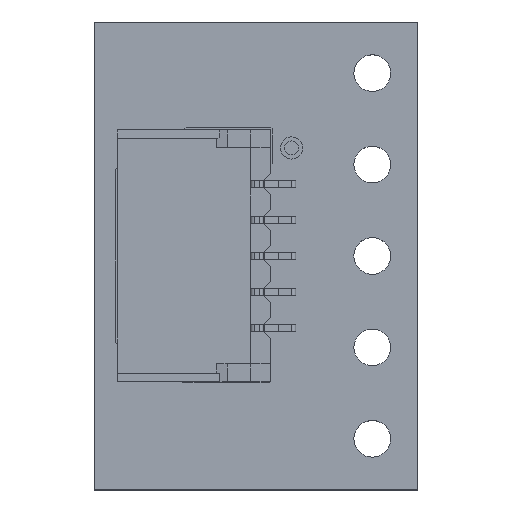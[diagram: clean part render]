
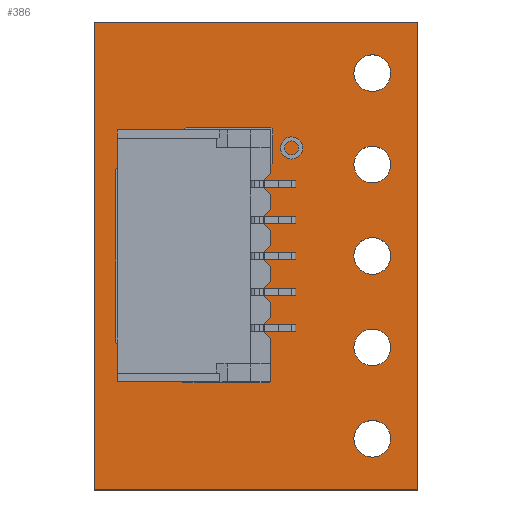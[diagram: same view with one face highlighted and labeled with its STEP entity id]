
A CAD part, top view. The second image highlights one B-rep face of the part: STEP entity #386.
In plain terms, the highlighted planar face has unit normal (0, 0, 1).
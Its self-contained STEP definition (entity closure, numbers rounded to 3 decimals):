
#102 = VERTEX_POINT('',#103);
#103 = CARTESIAN_POINT('',(9.,0.,0.));
#120 = VERTEX_POINT('',#121);
#121 = CARTESIAN_POINT('',(9.,-13.,0.));
#127 = EDGE_CURVE('',#102,#120,#128,.T.);
#128 = LINE('',#129,#130);
#129 = CARTESIAN_POINT('',(9.,0.,0.));
#130 = VECTOR('',#131,1.);
#131 = DIRECTION('',(0.,-1.,0.));
#142 = VERTEX_POINT('',#143);
#143 = CARTESIAN_POINT('',(0.,0.,0.));
#158 = EDGE_CURVE('',#142,#102,#159,.T.);
#159 = LINE('',#160,#161);
#160 = CARTESIAN_POINT('',(0.,0.,0.));
#161 = VECTOR('',#162,1.);
#162 = DIRECTION('',(1.,0.,0.));
#182 = VERTEX_POINT('',#183);
#183 = CARTESIAN_POINT('',(0.,-13.,0.));
#189 = EDGE_CURVE('',#120,#182,#190,.T.);
#190 = LINE('',#191,#192);
#191 = CARTESIAN_POINT('',(9.,-13.,0.));
#192 = VECTOR('',#193,1.);
#193 = DIRECTION('',(-1.,0.,0.));
#211 = EDGE_CURVE('',#182,#142,#212,.T.);
#212 = LINE('',#213,#214);
#213 = CARTESIAN_POINT('',(0.,-13.,0.));
#214 = VECTOR('',#215,1.);
#215 = DIRECTION('',(0.,1.,0.));
#226 = VERTEX_POINT('',#227);
#227 = CARTESIAN_POINT('',(8.24,-11.58,0.));
#243 = EDGE_CURVE('',#226,#226,#244,.T.);
#244 = CIRCLE('',#245,0.51);
#245 = AXIS2_PLACEMENT_3D('',#246,#247,#248);
#246 = CARTESIAN_POINT('',(7.73,-11.58,0.));
#247 = DIRECTION('',(0.,0.,1.));
#248 = DIRECTION('',(1.,0.,-0.));
#259 = VERTEX_POINT('',#260);
#260 = CARTESIAN_POINT('',(8.24,-9.04,0.));
#276 = EDGE_CURVE('',#259,#259,#277,.T.);
#277 = CIRCLE('',#278,0.51);
#278 = AXIS2_PLACEMENT_3D('',#279,#280,#281);
#279 = CARTESIAN_POINT('',(7.73,-9.04,0.));
#280 = DIRECTION('',(0.,0.,1.));
#281 = DIRECTION('',(1.,0.,-0.));
#292 = VERTEX_POINT('',#293);
#293 = CARTESIAN_POINT('',(8.24,-6.5,0.));
#309 = EDGE_CURVE('',#292,#292,#310,.T.);
#310 = CIRCLE('',#311,0.51);
#311 = AXIS2_PLACEMENT_3D('',#312,#313,#314);
#312 = CARTESIAN_POINT('',(7.73,-6.5,0.));
#313 = DIRECTION('',(0.,0.,1.));
#314 = DIRECTION('',(1.,0.,-0.));
#325 = VERTEX_POINT('',#326);
#326 = CARTESIAN_POINT('',(8.24,-3.96,0.));
#342 = EDGE_CURVE('',#325,#325,#343,.T.);
#343 = CIRCLE('',#344,0.51);
#344 = AXIS2_PLACEMENT_3D('',#345,#346,#347);
#345 = CARTESIAN_POINT('',(7.73,-3.96,0.));
#346 = DIRECTION('',(0.,0.,1.));
#347 = DIRECTION('',(1.,0.,-0.));
#358 = VERTEX_POINT('',#359);
#359 = CARTESIAN_POINT('',(8.24,-1.42,0.));
#375 = EDGE_CURVE('',#358,#358,#376,.T.);
#376 = CIRCLE('',#377,0.51);
#377 = AXIS2_PLACEMENT_3D('',#378,#379,#380);
#378 = CARTESIAN_POINT('',(7.73,-1.42,0.));
#379 = DIRECTION('',(0.,0.,1.));
#380 = DIRECTION('',(1.,0.,-0.));
#386 = ADVANCED_FACE('',(#387,#393,#396,#399,#402,#405),#408,.F.);
#387 = FACE_BOUND('',#388,.F.);
#388 = EDGE_LOOP('',(#389,#390,#391,#392));
#389 = ORIENTED_EDGE('',*,*,#127,.T.);
#390 = ORIENTED_EDGE('',*,*,#189,.T.);
#391 = ORIENTED_EDGE('',*,*,#211,.T.);
#392 = ORIENTED_EDGE('',*,*,#158,.T.);
#393 = FACE_BOUND('',#394,.F.);
#394 = EDGE_LOOP('',(#395));
#395 = ORIENTED_EDGE('',*,*,#243,.T.);
#396 = FACE_BOUND('',#397,.F.);
#397 = EDGE_LOOP('',(#398));
#398 = ORIENTED_EDGE('',*,*,#276,.T.);
#399 = FACE_BOUND('',#400,.F.);
#400 = EDGE_LOOP('',(#401));
#401 = ORIENTED_EDGE('',*,*,#309,.T.);
#402 = FACE_BOUND('',#403,.F.);
#403 = EDGE_LOOP('',(#404));
#404 = ORIENTED_EDGE('',*,*,#342,.T.);
#405 = FACE_BOUND('',#406,.F.);
#406 = EDGE_LOOP('',(#407));
#407 = ORIENTED_EDGE('',*,*,#375,.T.);
#408 = PLANE('',#409);
#409 = AXIS2_PLACEMENT_3D('',#410,#411,#412);
#410 = CARTESIAN_POINT('',(4.5,-6.5,0.));
#411 = DIRECTION('',(-0.,-0.,-1.));
#412 = DIRECTION('',(-1.,0.,0.));
